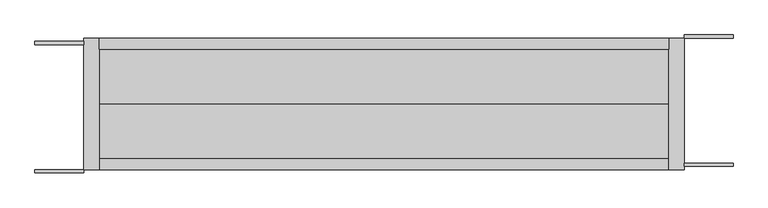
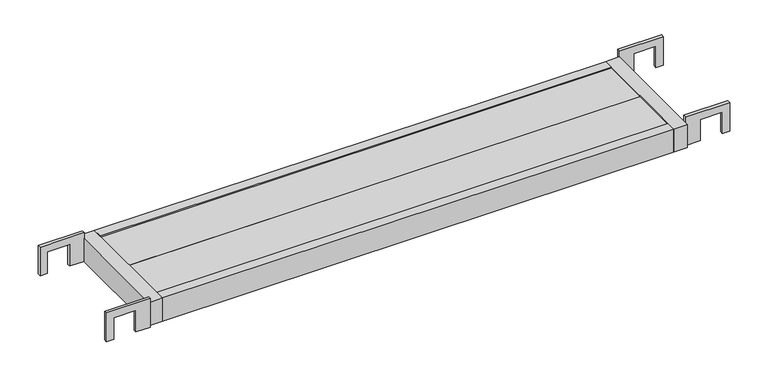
"""IFC4 building model written with IfcOpenShell, lengths in millimetres: proxy geometry, AKK布板HF-212_軽 : 鋼製布板 HF-212_軽."""

from ifc_helpers import new_model, si_unit, frame, origin, place, context, project, spatial, polyline, outline, extrude, source, transform, mapped, element, save


def generic_models_a2686e9c(model_context):
    return source(origin(), model_context, "Body", "SweptSolid", [
        extrude(outline(polyline([(37.5, 1157.5), (-24.1, 1157.5), (-24.1, 1187.0), (22.0, 1187.0), (22.0, 1232.0), (-24.1, 1232.0), (-24.1, 1247.0), (37.5, 1247.0), (37.5, 1157.5)])), frame((0.0, 12.0, 0.0), z_axis=(0.0, 1.0, 0.0), x_axis=(0.0, 0.0, 1.0)), (0.0, 0.0, 1.0), 6.0),
        extrude(outline(polyline([(37.5, 1157.5), (-24.1, 1157.5), (-24.1, 1187.0), (22.0, 1187.0), (22.0, 1232.0), (-24.1, 1232.0), (-24.1, 1247.0), (37.5, 1247.0), (37.5, 1157.5)])), frame((0.0, 246.0, 0.0), z_axis=(0.0, 1.0, 0.0), x_axis=(0.0, 0.0, 1.0)), (0.0, 0.0, 1.0), 6.0),
        extrude(outline(polyline([(37.5, -28.0), (-24.1, -28.0), (-24.1, -13.0), (22.0, -13.0), (22.0, 32.0), (-24.1, 32.0), (-24.1, 61.5), (37.5, 61.5), (37.5, -28.0)])), frame((0.0, 0.0, 0.0), z_axis=(0.0, 1.0, 0.0), x_axis=(0.0, 0.0, 1.0)), (0.0, 0.0, 1.0), 6.0),
        extrude(outline(polyline([(37.5, -28.0), (-24.1, -28.0), (-24.1, -13.0), (22.0, -13.0), (22.0, 32.0), (-24.1, 32.0), (-24.1, 61.5), (37.5, 61.5), (37.5, -28.0)])), frame((0.0, 234.0, 0.0), z_axis=(0.0, 1.0, 0.0), x_axis=(0.0, 0.0, 1.0)), (0.0, 0.0, 1.0), 6.0),
        extrude(outline(polyline([(1129.5, 226.0), (1129.5, 126.0), (89.5, 126.0), (89.5, 226.0), (1129.5, 226.0)])), frame((0.0, 0.0, 17.5), z_axis=(0.0, 0.0, 1.0), x_axis=(1.0, 0.0, 0.0)), (0.0, 0.0, 1.0), 5.0),
        extrude(outline(polyline([(1129.5, 126.0), (1129.5, 26.0), (89.5, 26.0), (89.5, 126.0), (1129.5, 126.0)])), frame((0.0, 0.0, 17.5), z_axis=(0.0, 0.0, 1.0), x_axis=(1.0, 0.0, 0.0)), (0.0, 0.0, 1.0), 5.0),
        extrude(outline(polyline([(1129.5, 246.0), (1129.5, 226.0), (89.5, 226.0), (89.5, 246.0), (1129.5, 246.0)])), frame((0.0, 0.0, -25.0), z_axis=(0.0, 0.0, 1.0), x_axis=(1.0, 0.0, 0.0)), (0.0, 0.0, 1.0), 50.0),
        extrude(outline(polyline([(1129.5, 6.0), (1129.5, 246.0), (1157.5, 246.0), (1157.5, 6.0), (1129.5, 6.0)])), frame((0.0, 0.0, -25.0), z_axis=(0.0, 0.0, 1.0), x_axis=(1.0, 0.0, 0.0)), (0.0, 0.0, 1.0), 50.0),
        extrude(outline(polyline([(61.5, 6.0), (61.5, 246.0), (89.5, 246.0), (89.5, 6.0), (61.5, 6.0)])), frame((0.0, 0.0, -25.0), z_axis=(0.0, 0.0, 1.0), x_axis=(1.0, 0.0, 0.0)), (0.0, 0.0, 1.0), 50.0),
        extrude(outline(polyline([(1129.5, 26.0), (1129.5, 6.0), (89.5, 6.0), (89.5, 26.0), (1129.5, 26.0)])), frame((0.0, 0.0, -25.0), z_axis=(0.0, 0.0, 1.0), x_axis=(1.0, 0.0, 0.0)), (0.0, 0.0, 1.0), 50.0),
    ])


if __name__ == "__main__":
    model = new_model("IFC4")
    model_context = context("Model", 3, world=origin())
    ifc_project = project(units=[si_unit("LENGTHUNIT", "METRE", prefix="MILLI")], contexts=[model_context])
    site = spatial("IfcSite", under=ifc_project)
    building = spatial("IfcBuilding", under=site)
    placement = place(None, origin())
    generic_models_shape = generic_models_a2686e9c(model_context)
    element("IfcBuildingElementProxy", 1, Name="AKK布板HF-212_軽 : 鋼製布板 HF-212_軽", ObjectType="AKK布板HF-212_軽 : 鋼製布板 HF-212_軽", at=placement, inside=building, context=model_context, shape_type="MappedRepresentation", body=[
        mapped(generic_models_shape, transform((0.0, 0.0, 0.0), x_axis=(1.0, 0.0, 0.0), y_axis=(0.0, 1.0, 0.0), z_axis=(0.0, 0.0, 1.0))),
    ])
    save(model, "model.ifc")
